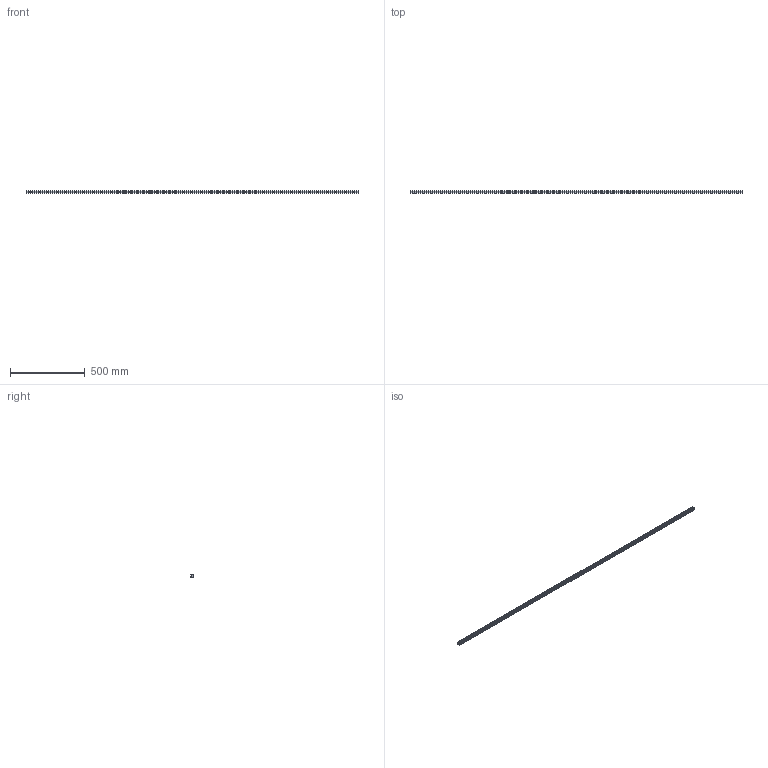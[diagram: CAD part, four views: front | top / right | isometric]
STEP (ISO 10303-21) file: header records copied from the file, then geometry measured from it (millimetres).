
FILE_DESCRIPTION (( 'STEP AP203' ), '1' );
FILE_NAME ('L1018.20R-2220.step', '2023-08-06T09:11:46', ( '' ), ( '' ), 'SwSTEP 2.0', 'SolidWorks 2019', '' );
FILE_SCHEMA (( 'CONFIG_CONTROL_DESIGN' ));
Length unit declared in the file: millimetre
Products named in the file (1): L1018.20R-2220
Bounding box: 2220 x 19.3 x 20 mm (x, y, z)
Volume: 704024.8 mm3; surface area: 187998.8 mm2
Topology: 1 solids, 1 shells, 362 faces, 821 edges, 461 vertices
Faces by surface type: cylinder 151, cone 148, plane 63
Entity records: 9656 total; most frequent: DIRECTION 1849, CARTESIAN_POINT 1571, ORIENTED_EDGE 1494, EDGE_CURVE 747, AXIS2_PLACEMENT_3D 739, VERTEX_POINT 461, EDGE_LOOP 436, CIRCLE 376
